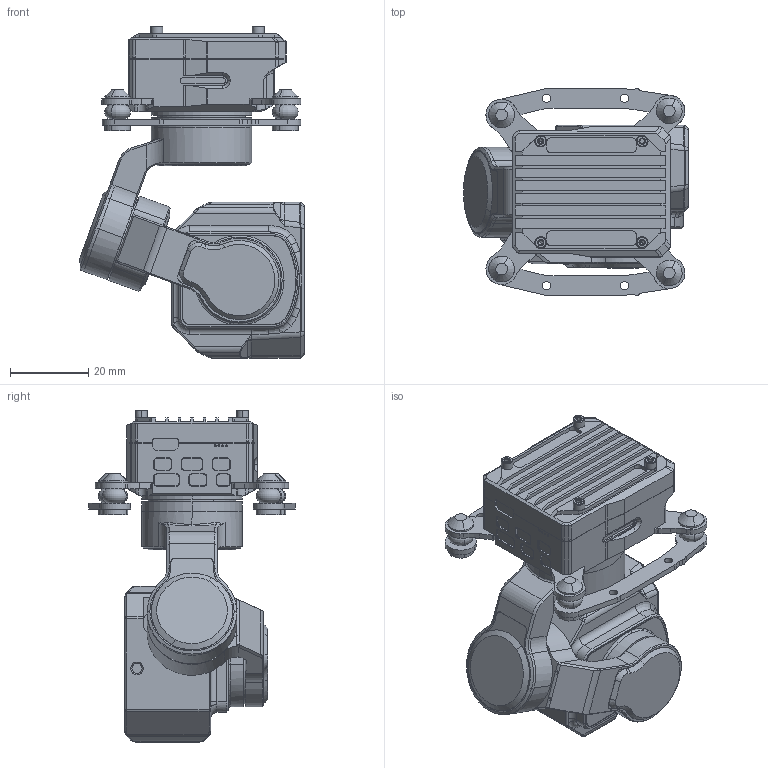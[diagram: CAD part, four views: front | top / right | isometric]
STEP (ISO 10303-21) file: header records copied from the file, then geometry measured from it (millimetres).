
FILE_DESCRIPTION(('CATIA V5 STEP Exchange'),'2;1');
FILE_NAME('C:\Users\liuchenhao\Desktop\Z-2Pro_3D.stp','2025-06-25T07:06:52+00:00',('none'),('none'),'CATIA Version 5 Release 21 GA (IN-10)','CATIA V5 STEP AP214','none');
FILE_SCHEMA(('AUTOMOTIVE_DESIGN { 1 0 10303 214 1 1 1 1 }'));
Products named in the file (1): Z-2Pro_3D
Bounding box: 57.72 x 53 x 85.12 mm (x, y, z)
Volume: 70056.4 mm3; surface area: 32157.1 mm2
Topology: 3 solids, 24 shells, 2046 faces, 5540 edges, 3528 vertices
Faces by surface type: plane 721, cylinder 644, cone 300, bspline 226, extrusion 116, torus 26, revolution 8, sphere 5
Entity records: 82542 total; most frequent: CARTESIAN_POINT 35796, ORIENTED_EDGE 10938, DIRECTION 7186, EDGE_CURVE 5492, VERTEX_POINT 3528, AXIS2_PLACEMENT_3D 2876, VECTOR 2803, LINE 2687
